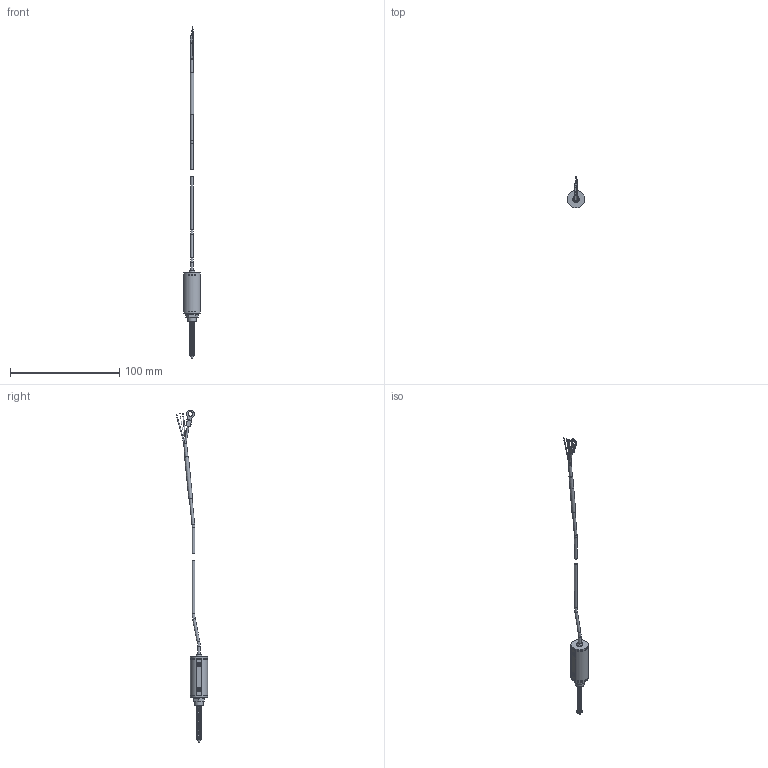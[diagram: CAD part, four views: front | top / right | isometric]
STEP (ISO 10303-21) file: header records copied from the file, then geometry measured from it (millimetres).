
FILE_DESCRIPTION(/* description */ (''),/* implementation_level */ '2;1');
FILE_NAME(/* name */ 'D:\Users\Justin\Documents\CAD Drawings\The Sensor Connection\LPPS\LPPS-MSL\3D\LPPS-MSL-005\LPPS-MSL-005.stp',/* time_stamp */ '2019-08-29T15:18:34-04:00',/* author */ ('Justin'),/* organization */ (''),/* preprocessor_version */ 'ST-DEVELOPER v18',/* originating_system */ 'Autodesk Inventor 2020',/* authorisation */ '');
FILE_SCHEMA (('AUTOMOTIVE_DESIGN { 1 0 10303 214 3 1 1 }'));
Length unit declared in the file: inch
Products named in the file (5): LPPS-MSL-005; LPPS-MSL-005 Housing Assembly_SW; Shaft Assembly-LPPS-MSL-005_Shrinkwrap_1; MSL-Spring 5mm; ISO 4035 - M8(6)
Assembly tree (4 placements, depth 2):
  LPPS-MSL-005
    LPPS-MSL-005 Housing Assembly_SW
    Shaft Assembly-LPPS-MSL-005_Shrinkwrap_1
    MSL-Spring 5mm
    ISO 4035 - M8(6)
Bounding box: 15.1 x 28.76 x 304.06 mm (x, y, z)
Volume: 4979.4 mm3; surface area: 9695.5 mm2
Topology: 24 solids, 24 shells, 339 faces, 855 edges, 577 vertices
Faces by surface type: plane 162, cylinder 83, cone 70, torus 21, sphere 2, bspline 1
Full cylindrical faces by diameter (mm): 0.381 x3, 0.635 x3, 1.5 x1, 1.755 x4, 2 x8, 2.274 x1, 2.5 x6, 2.75 x1, 2.85 x3, 3 x1, 3.5 x5, 4.191 x1, 5 x3, 6.1 x1, 6.5 x2, 6.647 x1, 8 x1, 9 x3, 9.5 x1
Entity records: 14730 total; most frequent: CARTESIAN_POINT 5877, DIRECTION 1752, ORIENTED_EDGE 1698, EDGE_CURVE 849, AXIS2_PLACEMENT_3D 697, VERTEX_POINT 577, EDGE_LOOP 404, LINE 358
